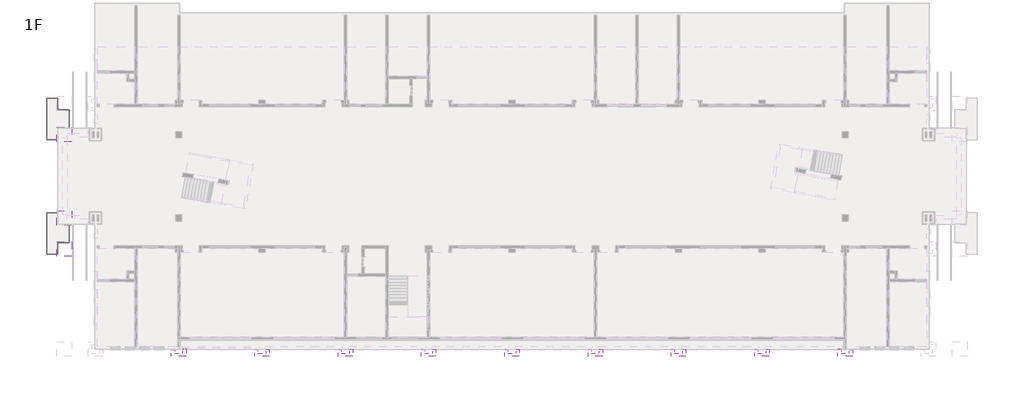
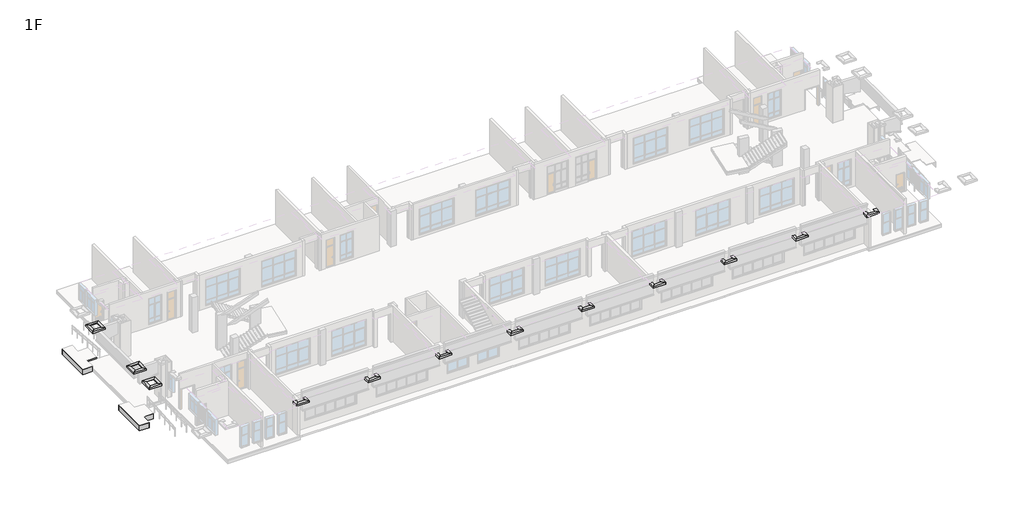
# One storey, part 13 of 16: 14 proxies.
"""IFC4 building model written with IfcOpenShell, lengths in millimetres."""

from ifc_helpers import new_model, si_unit, origin, place, context, project, spatial, faceted_brep, triangles, element, save

model = new_model("IFC4")

# Units and contexts
model_context = context("Model", 3, world=origin())
ifc_project = project(units=[si_unit("LENGTHUNIT", "METRE", prefix="MILLI")], contexts=[model_context])

# Site, building, storey
site = spatial("IfcSite", under=ifc_project)
building = spatial("IfcBuilding", under=site)
storey = spatial("IfcBuildingStorey", under=building, Name="1F", Elevation=0.0)

# Proxies
placement = place(None, origin())
element("IfcBuildingElementProxy", 1, Name="Building Element Proxy", at=placement, inside=storey, context=model_context, shape_type="Tessellation", body=[
    triangles([(-600.0000046, 20099.6894165, 149.8404724), (-600.0000046, 20099.6894165, -450.0000034), (-1700.000013, 20099.6894165, 149.8404724), (-1700.000013, 20099.6894165, -450.0000034), (-1700.000013, 24099.6452637, 149.8404724), (-1700.000013, 24099.6452637, -450.0000034), (-600.0000046, 24099.6452637, 149.8404724), (-600.0000046, 24099.6452637, -450.0000034), (-600.0000046, 22999.3961426, 149.8404724), (-600.0000046, 22999.3961426, -450.0000034), (500.0000038, 22999.3961426, 149.8404724), (500.0000038, 22999.3961426, -450.0000034), (500.0000038, 21199.7013428, 149.8404724), (500.0000038, 21199.7013428, -450.0000034), (-600.0000046, 21199.7013428, 149.8404724), (-600.0000046, 21199.7013428, -450.0000034), (-600.0000046, 21199.3967102, 149.8404724), (-600.0000046, 21199.3967102, -450.0000034)], [[1, 4, 2], [1, 3, 4], [3, 6, 4], [3, 5, 6], [5, 8, 6], [5, 7, 8], [7, 10, 8], [7, 9, 10], [9, 12, 10], [9, 11, 12], [11, 14, 12], [11, 13, 14], [13, 16, 14], [13, 15, 16], [15, 18, 16], [15, 17, 18]], closed=False),
    triangles([(-600.0000046, 21199.3967102, 149.8404724), (-600.0000046, 21199.3967102, -450.0000034), (-600.0000046, 21199.7013428, 149.8404724), (-600.0000046, 21199.7013428, -450.0000034), (500.0000038, 21199.7013428, 149.8404724), (500.0000038, 21199.7013428, -450.0000034), (500.0000038, 22999.3961426, 149.8404724), (500.0000038, 22999.3961426, -450.0000034), (-600.0000046, 22999.3961426, 149.8404724), (-600.0000046, 22999.3961426, -450.0000034), (-600.0000046, 24099.6452637, 149.8404724), (-600.0000046, 24099.6452637, -450.0000034), (-1700.000013, 24099.6452637, 149.8404724), (-1700.000013, 24099.6452637, -450.0000034)], [[1, 4, 2], [1, 3, 4], [3, 6, 4], [3, 5, 6], [5, 8, 6], [5, 7, 8], [7, 10, 8], [7, 9, 10], [9, 12, 10], [9, 11, 12], [11, 14, 12], [11, 13, 14]], closed=False),
    triangles([(-1700.000013, 24099.6452637, 149.8404724), (-1700.000013, 24099.6452637, -450.0000034), (-1700.000013, 20099.6894165, 149.8404724), (-1700.000013, 20099.6894165, -450.0000034), (-600.0000046, 20099.6894165, 149.8404724), (-600.0000046, 20099.6894165, -450.0000034)], [[1, 4, 2], [1, 3, 4], [3, 6, 4], [3, 5, 6]], closed=False),
    triangles([(-1700.000013, 24099.6452637, 149.8404724), (-1700.000013, 20099.6894165, 149.8404724), (-600.0000046, 20099.6894165, 149.8404724), (-600.0000046, 21199.7013428, 149.8404724), (500.0000038, 21199.7013428, 149.8404724), (500.0000038, 22999.3961426, 149.8404724), (-600.0000046, 22999.3961426, 149.8404724), (-600.0000046, 24099.6452637, 149.8404724)], [[2, 4, 7], [4, 2, 3], [1, 7, 8], [7, 1, 2], [4, 6, 7], [5, 6, 4]], closed=False),
])
element("IfcBuildingElementProxy", 2, Name="Building Element Proxy", at=placement, inside=storey, context=model_context, shape_type="Tessellation", body=[
    triangles([(-600.0000046, 12000.6035431, 149.8404724), (-600.0000046, 12000.6035431, -450.0000034), (-600.0000046, 12000.2989105, 149.8404724), (-600.0000046, 12000.2989105, -450.0000034), (500.0000038, 12000.2989105, 149.8404724), (500.0000038, 12000.2989105, -450.0000034), (500.0000038, 10200.6041107, 149.8404724), (500.0000038, 10200.6041107, -450.0000034), (-600.0000046, 10200.6041107, 149.8404724), (-600.0000046, 10200.6041107, -450.0000034), (-600.0000046, 9100.3544083, 149.8404724), (-600.0000046, 9100.3544083, -450.0000034), (-1700.000013, 9100.3544083, 149.8404724), (-1700.000013, 9100.3544083, -450.0000034), (-1700.000013, 13100.3096741, 149.8404724), (-1700.000013, 13100.3096741, -450.0000034), (-600.0000046, 13100.3096741, 149.8404724), (-600.0000046, 13100.3096741, -450.0000034)], [[1, 4, 2], [1, 3, 4], [3, 6, 4], [3, 5, 6], [5, 8, 6], [5, 7, 8], [7, 10, 8], [7, 9, 10], [9, 12, 10], [9, 11, 12], [11, 14, 12], [11, 13, 14], [13, 16, 14], [13, 15, 16], [15, 18, 16], [15, 17, 18]], closed=False),
    triangles([(-600.0000046, 13100.3096741, 149.8404724), (-600.0000046, 13100.3096741, -450.0000034), (-1700.000013, 13100.3096741, 149.8404724), (-1700.000013, 13100.3096741, -450.0000034), (-1700.000013, 9100.3544083, 149.8404724), (-1700.000013, 9100.3544083, -450.0000034)], [[1, 4, 2], [1, 3, 4], [3, 6, 4], [3, 5, 6]], closed=False),
    triangles([(-1700.000013, 9100.3544083, 149.8404724), (-1700.000013, 9100.3544083, -450.0000034), (-600.0000046, 9100.3544083, 149.8404724), (-600.0000046, 9100.3544083, -450.0000034), (-600.0000046, 10200.6041107, 149.8404724), (-600.0000046, 10200.6041107, -450.0000034), (500.0000038, 10200.6041107, 149.8404724), (500.0000038, 10200.6041107, -450.0000034), (500.0000038, 12000.2989105, 149.8404724), (500.0000038, 12000.2989105, -450.0000034), (-600.0000046, 12000.2989105, 149.8404724), (-600.0000046, 12000.2989105, -450.0000034), (-600.0000046, 12000.6035431, 149.8404724), (-600.0000046, 12000.6035431, -450.0000034)], [[1, 4, 2], [1, 3, 4], [3, 6, 4], [3, 5, 6], [5, 8, 6], [5, 7, 8], [7, 10, 8], [7, 9, 10], [9, 12, 10], [9, 11, 12], [11, 14, 12], [11, 13, 14]], closed=False),
    triangles([(-1700.000013, 9100.3544083, 149.8404724), (-600.0000046, 9100.3544083, 149.8404724), (-600.0000046, 10200.6041107, 149.8404724), (500.0000038, 10200.6041107, 149.8404724), (500.0000038, 12000.2989105, 149.8404724), (-600.0000046, 12000.2989105, 149.8404724), (-600.0000046, 13100.3096741, 149.8404724), (-1700.000013, 13100.3096741, 149.8404724)], [[1, 3, 8], [3, 1, 2], [8, 6, 7], [6, 8, 3], [3, 5, 6], [5, 3, 4]], closed=False),
])
element("IfcBuildingElementProxy", 3, Name="QS1", ObjectType="QS1", at=placement, inside=storey, context=model_context, shape_type="Brep", body=[
    faceted_brep([(-700.0000001, 19899.7006935, 4200.0), (-600.0000001, 19999.7006935, 4200.0), (-600.0000001, 19999.7006935, 4250.0), (-650.0000001, 19949.7006935, 4250.0), (-650.0000001, 19949.7006935, 4350.0), (-400.0000001, 20199.7006935, 4350.0), (-400.0000001, 20199.7006935, 4400.0), (-700.0000001, 19899.7006935, 4400.0), (-700.0000001, 21299.7006935, 4200.0), (-700.0000001, 21299.7006935, 4400.0), (-400.0000001, 20999.7006935, 4400.0), (-400.0000001, 20999.7006935, 4350.0), (-650.0000001, 21249.7006935, 4350.0), (-650.0000001, 21249.7006935, 4250.0), (-600.0000001, 21199.7006935, 4250.0), (-600.0000001, 21199.7006935, 4200.0)], [[[0, 1, 2, 3, 4, 5, 6, 7]], [[8, 9, 10, 11, 12, 13, 14, 15]], [[1, 0, 8, 15]], [[2, 1, 15, 14]], [[3, 2, 14, 13]], [[4, 3, 13, 12]], [[5, 4, 12, 11]], [[6, 5, 11, 10]], [[7, 6, 10, 9]], [[0, 7, 9, 8]]]),
    faceted_brep([(-700.0000001, 21299.7006935, 4200.0), (-600.0000001, 21199.7006935, 4200.0), (-600.0000001, 21199.7006935, 4250.0), (-650.0000001, 21249.7006935, 4250.0), (-650.0000001, 21249.7006935, 4350.0), (-400.0000001, 20999.7006935, 4350.0), (-400.0000001, 20999.7006935, 4400.0), (-700.0000001, 21299.7006935, 4400.0), (700.0, 21299.7006935, 4200.0), (700.0, 21299.7006935, 4400.0), (400.0, 20999.7006935, 4400.0), (400.0, 20999.7006935, 4350.0), (650.0, 21249.7006935, 4350.0), (650.0, 21249.7006935, 4250.0), (600.0, 21199.7006935, 4250.0), (600.0, 21199.7006935, 4200.0)], [[[0, 1, 2, 3, 4, 5, 6, 7]], [[8, 9, 10, 11, 12, 13, 14, 15]], [[1, 0, 8, 15]], [[2, 1, 15, 14]], [[3, 2, 14, 13]], [[4, 3, 13, 12]], [[5, 4, 12, 11]], [[6, 5, 11, 10]], [[7, 6, 10, 9]], [[0, 7, 9, 8]]]),
    faceted_brep([(700.0, 19899.7006935, 4200.0), (600.0, 19999.7006935, 4200.0), (600.0, 19999.7006935, 4250.0), (650.0, 19949.7006935, 4250.0), (650.0, 19949.7006935, 4350.0), (400.0, 20199.7006935, 4350.0), (400.0, 20199.7006935, 4400.0), (700.0, 19899.7006935, 4400.0), (-700.0000001, 19899.7006935, 4200.0), (-700.0000001, 19899.7006935, 4400.0), (-400.0000001, 20199.7006935, 4400.0), (-400.0000001, 20199.7006935, 4350.0), (-650.0000001, 19949.7006935, 4350.0), (-650.0000001, 19949.7006935, 4250.0), (-600.0000001, 19999.7006935, 4250.0), (-600.0000001, 19999.7006935, 4200.0)], [[[0, 1, 2, 3, 4, 5, 6, 7]], [[8, 9, 10, 11, 12, 13, 14, 15]], [[1, 0, 8, 15]], [[2, 1, 15, 14]], [[3, 2, 14, 13]], [[4, 3, 13, 12]], [[5, 4, 12, 11]], [[6, 5, 11, 10]], [[7, 6, 10, 9]], [[0, 7, 9, 8]]]),
    faceted_brep([(700.0, 21299.7006935, 4200.0), (600.0, 21199.7006935, 4200.0), (600.0, 21199.7006935, 4250.0), (650.0, 21249.7006935, 4250.0), (650.0, 21249.7006935, 4350.0), (400.0, 20999.7006935, 4350.0), (400.0, 20999.7006935, 4400.0), (700.0, 21299.7006935, 4400.0), (700.0, 19899.7006935, 4200.0), (700.0, 19899.7006935, 4400.0), (400.0, 20199.7006935, 4400.0), (400.0, 20199.7006935, 4350.0), (650.0, 19949.7006935, 4350.0), (650.0, 19949.7006935, 4250.0), (600.0, 19999.7006935, 4250.0), (600.0, 19999.7006935, 4200.0)], [[[0, 1, 2, 3, 4, 5, 6, 7]], [[8, 9, 10, 11, 12, 13, 14, 15]], [[1, 0, 8, 15]], [[2, 1, 15, 14]], [[3, 2, 14, 13]], [[4, 3, 13, 12]], [[5, 4, 12, 11]], [[6, 5, 11, 10]], [[7, 6, 10, 9]], [[0, 7, 9, 8]]]),
])
element("IfcBuildingElementProxy", 4, Name="QS1", ObjectType="QS1", at=placement, inside=storey, context=model_context, shape_type="Brep", body=[
    faceted_brep([(-700.0000001, 11899.3961574, 4200.0), (-600.0000001, 11999.3961574, 4200.0), (-600.0000001, 11999.3961574, 4250.0), (-650.0000001, 11949.3961574, 4250.0), (-650.0000001, 11949.3961574, 4350.0), (-400.0000001, 12199.3961574, 4350.0), (-400.0000001, 12199.3961574, 4400.0), (-700.0000001, 11899.3961574, 4400.0), (-700.0000001, 13299.3961574, 4200.0), (-700.0000001, 13299.3961574, 4400.0), (-400.0000001, 12999.3961574, 4400.0), (-400.0000001, 12999.3961574, 4350.0), (-650.0000001, 13249.3961574, 4350.0), (-650.0000001, 13249.3961574, 4250.0), (-600.0000001, 13199.3961574, 4250.0), (-600.0000001, 13199.3961574, 4200.0)], [[[0, 1, 2, 3, 4, 5, 6, 7]], [[8, 9, 10, 11, 12, 13, 14, 15]], [[1, 0, 8, 15]], [[2, 1, 15, 14]], [[3, 2, 14, 13]], [[4, 3, 13, 12]], [[5, 4, 12, 11]], [[6, 5, 11, 10]], [[7, 6, 10, 9]], [[0, 7, 9, 8]]]),
    faceted_brep([(-700.0000001, 13299.3961574, 4200.0), (-600.0000001, 13199.3961574, 4200.0), (-600.0000001, 13199.3961574, 4250.0), (-650.0000001, 13249.3961574, 4250.0), (-650.0000001, 13249.3961574, 4350.0), (-400.0000001, 12999.3961574, 4350.0), (-400.0000001, 12999.3961574, 4400.0), (-700.0000001, 13299.3961574, 4400.0), (700.0, 13299.3961574, 4200.0), (700.0, 13299.3961574, 4400.0), (400.0, 12999.3961574, 4400.0), (400.0, 12999.3961574, 4350.0), (650.0, 13249.3961574, 4350.0), (650.0, 13249.3961574, 4250.0), (600.0, 13199.3961574, 4250.0), (600.0, 13199.3961574, 4200.0)], [[[0, 1, 2, 3, 4, 5, 6, 7]], [[8, 9, 10, 11, 12, 13, 14, 15]], [[1, 0, 8, 15]], [[2, 1, 15, 14]], [[3, 2, 14, 13]], [[4, 3, 13, 12]], [[5, 4, 12, 11]], [[6, 5, 11, 10]], [[7, 6, 10, 9]], [[0, 7, 9, 8]]]),
    faceted_brep([(700.0, 11899.3961574, 4200.0), (600.0, 11999.3961574, 4200.0), (600.0, 11999.3961574, 4250.0), (650.0, 11949.3961574, 4250.0), (650.0, 11949.3961574, 4350.0), (400.0, 12199.3961574, 4350.0), (400.0, 12199.3961574, 4400.0), (700.0, 11899.3961574, 4400.0), (-700.0000001, 11899.3961574, 4200.0), (-700.0000001, 11899.3961574, 4400.0), (-400.0000001, 12199.3961574, 4400.0), (-400.0000001, 12199.3961574, 4350.0), (-650.0000001, 11949.3961574, 4350.0), (-650.0000001, 11949.3961574, 4250.0), (-600.0000001, 11999.3961574, 4250.0), (-600.0000001, 11999.3961574, 4200.0)], [[[0, 1, 2, 3, 4, 5, 6, 7]], [[8, 9, 10, 11, 12, 13, 14, 15]], [[1, 0, 8, 15]], [[2, 1, 15, 14]], [[3, 2, 14, 13]], [[4, 3, 13, 12]], [[5, 4, 12, 11]], [[6, 5, 11, 10]], [[7, 6, 10, 9]], [[0, 7, 9, 8]]]),
    faceted_brep([(700.0, 13299.3961574, 4200.0), (600.0, 13199.3961574, 4200.0), (600.0, 13199.3961574, 4250.0), (650.0, 13249.3961574, 4250.0), (650.0, 13249.3961574, 4350.0), (400.0, 12999.3961574, 4350.0), (400.0, 12999.3961574, 4400.0), (700.0, 13299.3961574, 4400.0), (700.0, 11899.3961574, 4200.0), (700.0, 11899.3961574, 4400.0), (400.0, 12199.3961574, 4400.0), (400.0, 12199.3961574, 4350.0), (650.0, 11949.3961574, 4350.0), (650.0, 11949.3961574, 4250.0), (600.0, 11999.3961574, 4250.0), (600.0, 11999.3961574, 4200.0)], [[[0, 1, 2, 3, 4, 5, 6, 7]], [[8, 9, 10, 11, 12, 13, 14, 15]], [[1, 0, 8, 15]], [[2, 1, 15, 14]], [[3, 2, 14, 13]], [[4, 3, 13, 12]], [[5, 4, 12, 11]], [[6, 5, 11, 10]], [[7, 6, 10, 9]], [[0, 7, 9, 8]]]),
])
element("IfcBuildingElementProxy", 5, Name="QS1", ObjectType="QS1", at=placement, inside=storey, context=model_context, shape_type="Brep", body=[
    faceted_brep([(-700.0000001, 8899.451414, 4200.0), (-600.0000001, 8999.451414, 4200.0), (-600.0000001, 8999.451414, 4250.0), (-650.0000001, 8949.451414, 4250.0), (-650.0000001, 8949.451414, 4350.0), (-400.0000001, 9199.451414, 4350.0), (-400.0000001, 9199.451414, 4400.0), (-700.0000001, 8899.451414, 4400.0), (-700.0000001, 10299.451414, 4200.0), (-700.0000001, 10299.451414, 4400.0), (-400.0000001, 9999.451414, 4400.0), (-400.0000001, 9999.451414, 4350.0), (-650.0000001, 10249.451414, 4350.0), (-650.0000001, 10249.451414, 4250.0), (-600.0000001, 10199.451414, 4250.0), (-600.0000001, 10199.451414, 4200.0)], [[[0, 1, 2, 3, 4, 5, 6, 7]], [[8, 9, 10, 11, 12, 13, 14, 15]], [[1, 0, 8, 15]], [[2, 1, 15, 14]], [[3, 2, 14, 13]], [[4, 3, 13, 12]], [[5, 4, 12, 11]], [[6, 5, 11, 10]], [[7, 6, 10, 9]], [[0, 7, 9, 8]]]),
    faceted_brep([(-700.0000001, 10299.451414, 4200.0), (-600.0000001, 10199.451414, 4200.0), (-600.0000001, 10199.451414, 4250.0), (-650.0000001, 10249.451414, 4250.0), (-650.0000001, 10249.451414, 4350.0), (-400.0000001, 9999.451414, 4350.0), (-400.0000001, 9999.451414, 4400.0), (-700.0000001, 10299.451414, 4400.0), (700.0, 10299.451414, 4200.0), (700.0, 10299.451414, 4400.0), (400.0, 9999.451414, 4400.0), (400.0, 9999.451414, 4350.0), (650.0, 10249.451414, 4350.0), (650.0, 10249.451414, 4250.0), (600.0, 10199.451414, 4250.0), (600.0, 10199.451414, 4200.0)], [[[0, 1, 2, 3, 4, 5, 6, 7]], [[8, 9, 10, 11, 12, 13, 14, 15]], [[1, 0, 8, 15]], [[2, 1, 15, 14]], [[3, 2, 14, 13]], [[4, 3, 13, 12]], [[5, 4, 12, 11]], [[6, 5, 11, 10]], [[7, 6, 10, 9]], [[0, 7, 9, 8]]]),
    faceted_brep([(700.0, 8899.451414, 4200.0), (600.0, 8999.451414, 4200.0), (600.0, 8999.451414, 4250.0), (650.0, 8949.451414, 4250.0), (650.0, 8949.451414, 4350.0), (400.0, 9199.451414, 4350.0), (400.0, 9199.451414, 4400.0), (700.0, 8899.451414, 4400.0), (-700.0000001, 8899.451414, 4200.0), (-700.0000001, 8899.451414, 4400.0), (-400.0000001, 9199.451414, 4400.0), (-400.0000001, 9199.451414, 4350.0), (-650.0000001, 8949.451414, 4350.0), (-650.0000001, 8949.451414, 4250.0), (-600.0000001, 8999.451414, 4250.0), (-600.0000001, 8999.451414, 4200.0)], [[[0, 1, 2, 3, 4, 5, 6, 7]], [[8, 9, 10, 11, 12, 13, 14, 15]], [[1, 0, 8, 15]], [[2, 1, 15, 14]], [[3, 2, 14, 13]], [[4, 3, 13, 12]], [[5, 4, 12, 11]], [[6, 5, 11, 10]], [[7, 6, 10, 9]], [[0, 7, 9, 8]]]),
    faceted_brep([(700.0, 10299.451414, 4200.0), (600.0, 10199.451414, 4200.0), (600.0, 10199.451414, 4250.0), (650.0, 10249.451414, 4250.0), (650.0, 10249.451414, 4350.0), (400.0, 9999.451414, 4350.0), (400.0, 9999.451414, 4400.0), (700.0, 10299.451414, 4400.0), (700.0, 8899.451414, 4200.0), (700.0, 8899.451414, 4400.0), (400.0, 9199.451414, 4400.0), (400.0, 9199.451414, 4350.0), (650.0, 8949.451414, 4350.0), (650.0, 8949.451414, 4250.0), (600.0, 8999.451414, 4250.0), (600.0, 8999.451414, 4200.0)], [[[0, 1, 2, 3, 4, 5, 6, 7]], [[8, 9, 10, 11, 12, 13, 14, 15]], [[1, 0, 8, 15]], [[2, 1, 15, 14]], [[3, 2, 14, 13]], [[4, 3, 13, 12]], [[5, 4, 12, 11]], [[6, 5, 11, 10]], [[7, 6, 10, 9]], [[0, 7, 9, 8]]]),
])
element("IfcBuildingElementProxy", 6, Name="QS1", ObjectType="QS1", at=placement, inside=storey, context=model_context, shape_type="Brep", body=[
    faceted_brep([(74300.0000001, -700.2492803, 4200.0), (74400.0000001, -600.2492803, 4200.0), (74400.0000001, -600.2492803, 4250.0), (74350.0000001, -650.2492803, 4250.0), (74350.0000001, -650.2492803, 4350.0), (74600.0000001, -400.2492803, 4350.0), (74600.0000001, -400.2492803, 4400.0), (74300.0000001, -700.2492803, 4400.0), (74300.0000001, 39.7507197, 4200.0), (74300.0000001, 39.7507197, 4400.0), (74600.0000001, 39.7507197, 4400.0), (74600.0000001, 39.7507197, 4350.0), (74350.0000001, 39.7507197, 4350.0), (74350.0000001, 39.7507197, 4250.0), (74400.0000001, 39.7507197, 4250.0), (74400.0000001, 39.7507197, 4200.0)], [[[0, 1, 2, 3, 4, 5, 6, 7]], [[8, 9, 10, 11, 12, 13, 14, 15]], [[1, 0, 8, 15]], [[2, 1, 15, 14]], [[3, 2, 14, 13]], [[4, 3, 13, 12]], [[5, 4, 12, 11]], [[6, 5, 11, 10]], [[7, 6, 10, 9]], [[0, 7, 9, 8]]]),
    faceted_brep([(75699.9999991, -700.2492803, 4200.0), (75599.9999991, -600.2492803, 4200.0), (75599.9999991, -600.2492803, 4250.0), (75649.9999991, -650.2492803, 4250.0), (75649.9999991, -650.2492803, 4350.0), (75399.9999991, -400.2492803, 4350.0), (75399.9999991, -400.2492803, 4400.0), (75699.9999991, -700.2492803, 4400.0), (74300.0000001, -700.2492803, 4200.0), (74300.0000001, -700.2492803, 4400.0), (74600.0000001, -400.2492803, 4400.0), (74600.0000001, -400.2492803, 4350.0), (74350.0000001, -650.2492803, 4350.0), (74350.0000001, -650.2492803, 4250.0), (74400.0000001, -600.2492803, 4250.0), (74400.0000001, -600.2492803, 4200.0)], [[[0, 1, 2, 3, 4, 5, 6, 7]], [[8, 9, 10, 11, 12, 13, 14, 15]], [[1, 0, 8, 15]], [[2, 1, 15, 14]], [[3, 2, 14, 13]], [[4, 3, 13, 12]], [[5, 4, 12, 11]], [[6, 5, 11, 10]], [[7, 6, 10, 9]], [[0, 7, 9, 8]]]),
    faceted_brep([(75699.9999991, -53.304536, 4200.0), (75599.9999991, -53.304536, 4200.0), (75599.9999991, -53.304536, 4250.0), (75649.9999991, -53.304536, 4250.0), (75649.9999991, -53.304536, 4350.0), (75399.9999991, -53.304536, 4350.0), (75399.9999991, -53.304536, 4400.0), (75699.9999991, -53.304536, 4400.0), (75699.9999991, -700.2492803, 4200.0), (75699.9999991, -700.2492803, 4400.0), (75399.9999991, -400.2492803, 4400.0), (75399.9999991, -400.2492803, 4350.0), (75649.9999991, -650.2492803, 4350.0), (75649.9999991, -650.2492803, 4250.0), (75599.9999991, -600.2492803, 4250.0), (75599.9999991, -600.2492803, 4200.0)], [[[0, 1, 2, 3, 4, 5, 6, 7]], [[8, 9, 10, 11, 12, 13, 14, 15]], [[1, 0, 8, 15]], [[2, 1, 15, 14]], [[3, 2, 14, 13]], [[4, 3, 13, 12]], [[5, 4, 12, 11]], [[6, 5, 11, 10]], [[7, 6, 10, 9]], [[0, 7, 9, 8]]]),
])
element("IfcBuildingElementProxy", 7, Name="QS1", ObjectType="QS1", at=placement, inside=storey, context=model_context, shape_type="Brep", body=[
    faceted_brep([(11699.9999999, -699.6402082, 4200.0), (11699.9999999, -699.6402082, 4400.0), (11399.9999999, -399.6402082, 4400.0), (11399.9999999, -399.6402082, 4350.0), (11649.9999999, -649.6402082, 4350.0), (11649.9999999, -649.6402082, 4250.0), (11599.9999999, -599.6402082, 4250.0), (11599.9999999, -599.6402082, 4200.0), (11699.9999999, 40.3597918, 4200.0), (11599.9999999, 40.3597918, 4200.0), (11599.9999999, 40.3597918, 4250.0), (11649.9999999, 40.3597918, 4250.0), (11649.9999999, 40.3597918, 4350.0), (11399.9999999, 40.3597918, 4350.0), (11399.9999999, 40.3597918, 4400.0), (11699.9999999, 40.3597918, 4400.0)], [[[0, 1, 2, 3, 4, 5, 6, 7]], [[8, 9, 10, 11, 12, 13, 14, 15]], [[0, 7, 9, 8]], [[7, 6, 10, 9]], [[6, 5, 11, 10]], [[5, 4, 12, 11]], [[4, 3, 13, 12]], [[3, 2, 14, 13]], [[2, 1, 15, 14]], [[1, 0, 8, 15]]]),
    faceted_brep([(10300.0000009, -699.6402082, 4200.0), (10300.0000009, -699.6402082, 4400.0), (10600.0000009, -399.6402082, 4400.0), (10600.0000009, -399.6402082, 4350.0), (10350.0000009, -649.6402082, 4350.0), (10350.0000009, -649.6402082, 4250.0), (10400.0000009, -599.6402082, 4250.0), (10400.0000009, -599.6402082, 4200.0), (11699.9999999, -699.6402082, 4200.0), (11599.9999999, -599.6402082, 4200.0), (11599.9999999, -599.6402082, 4250.0), (11649.9999999, -649.6402082, 4250.0), (11649.9999999, -649.6402082, 4350.0), (11399.9999999, -399.6402082, 4350.0), (11399.9999999, -399.6402082, 4400.0), (11699.9999999, -699.6402082, 4400.0)], [[[0, 1, 2, 3, 4, 5, 6, 7]], [[8, 9, 10, 11, 12, 13, 14, 15]], [[0, 7, 9, 8]], [[7, 6, 10, 9]], [[6, 5, 11, 10]], [[5, 4, 12, 11]], [[4, 3, 13, 12]], [[3, 2, 14, 13]], [[2, 1, 15, 14]], [[1, 0, 8, 15]]]),
    faceted_brep([(10300.0000009, -52.6954639, 4200.0), (10300.0000009, -52.6954639, 4400.0), (10600.0000009, -52.6954639, 4400.0), (10600.0000009, -52.6954639, 4350.0), (10350.0000009, -52.6954639, 4350.0), (10350.0000009, -52.6954639, 4250.0), (10400.0000009, -52.6954639, 4250.0), (10400.0000009, -52.6954639, 4200.0), (10300.0000009, -699.6402082, 4200.0), (10400.0000009, -599.6402082, 4200.0), (10400.0000009, -599.6402082, 4250.0), (10350.0000009, -649.6402082, 4250.0), (10350.0000009, -649.6402082, 4350.0), (10600.0000009, -399.6402082, 4350.0), (10600.0000009, -399.6402082, 4400.0), (10300.0000009, -699.6402082, 4400.0)], [[[0, 1, 2, 3, 4, 5, 6, 7]], [[8, 9, 10, 11, 12, 13, 14, 15]], [[0, 7, 9, 8]], [[7, 6, 10, 9]], [[6, 5, 11, 10]], [[5, 4, 12, 11]], [[4, 3, 13, 12]], [[3, 2, 14, 13]], [[2, 1, 15, 14]], [[1, 0, 8, 15]]]),
])
element("IfcBuildingElementProxy", 8, Name="QS1", ObjectType="QS1", at=placement, inside=storey, context=model_context, shape_type="Brep", body=[
    faceted_brep([(18300.0000009, 0.0, 4200.0), (18300.0000009, 0.0, 4400.0), (18600.0000009, 0.0, 4400.0), (18600.0000009, 0.0, 4350.0), (18350.0000009, 0.0, 4350.0), (18350.0000009, 0.0, 4250.0), (18400.0000009, 0.0, 4250.0), (18400.0000009, 0.0, 4200.0), (18300.0000009, -699.6402082, 4200.0), (18400.0000009, -599.6402082, 4200.0), (18400.0000009, -599.6402082, 4250.0), (18350.0000009, -649.6402082, 4250.0), (18350.0000009, -649.6402082, 4350.0), (18600.0000009, -399.6402082, 4350.0), (18600.0000009, -399.6402082, 4400.0), (18300.0000009, -699.6402082, 4400.0)], [[[0, 1, 2, 3, 4, 5, 6, 7]], [[8, 9, 10, 11, 12, 13, 14, 15]], [[0, 7, 9, 8]], [[7, 6, 10, 9]], [[6, 5, 11, 10]], [[5, 4, 12, 11]], [[4, 3, 13, 12]], [[3, 2, 14, 13]], [[2, 1, 15, 14]], [[1, 0, 8, 15]]]),
    faceted_brep([(18300.0000009, -699.6402082, 4200.0), (18300.0000009, -699.6402082, 4400.0), (18600.0000009, -399.6402082, 4400.0), (18600.0000009, -399.6402082, 4350.0), (18350.0000009, -649.6402082, 4350.0), (18350.0000009, -649.6402082, 4250.0), (18400.0000009, -599.6402082, 4250.0), (18400.0000009, -599.6402082, 4200.0), (19699.9999999, -699.6402082, 4200.0), (19599.9999999, -599.6402082, 4200.0), (19599.9999999, -599.6402082, 4250.0), (19649.9999999, -649.6402082, 4250.0), (19649.9999999, -649.6402082, 4350.0), (19399.9999999, -399.6402082, 4350.0), (19399.9999999, -399.6402082, 4400.0), (19699.9999999, -699.6402082, 4400.0)], [[[0, 1, 2, 3, 4, 5, 6, 7]], [[8, 9, 10, 11, 12, 13, 14, 15]], [[0, 7, 9, 8]], [[7, 6, 10, 9]], [[6, 5, 11, 10]], [[5, 4, 12, 11]], [[4, 3, 13, 12]], [[3, 2, 14, 13]], [[2, 1, 15, 14]], [[1, 0, 8, 15]]]),
    faceted_brep([(19699.9999999, -699.6402082, 4200.0), (19699.9999999, -699.6402082, 4400.0), (19399.9999999, -399.6402082, 4400.0), (19399.9999999, -399.6402082, 4350.0), (19649.9999999, -649.6402082, 4350.0), (19649.9999999, -649.6402082, 4250.0), (19599.9999999, -599.6402082, 4250.0), (19599.9999999, -599.6402082, 4200.0), (19699.9999999, 0.155043, 4200.0), (19599.9999999, 0.155043, 4200.0), (19599.9999999, 0.155043, 4250.0), (19649.9999999, 0.155043, 4250.0), (19649.9999999, 0.155043, 4350.0), (19399.9999999, 0.155043, 4350.0), (19399.9999999, 0.155043, 4400.0), (19699.9999999, 0.155043, 4400.0)], [[[0, 1, 2, 3, 4, 5, 6, 7]], [[8, 9, 10, 11, 12, 13, 14, 15]], [[0, 7, 9, 8]], [[7, 6, 10, 9]], [[6, 5, 11, 10]], [[5, 4, 12, 11]], [[4, 3, 13, 12]], [[3, 2, 14, 13]], [[2, 1, 15, 14]], [[1, 0, 8, 15]]]),
])
element("IfcBuildingElementProxy", 9, Name="QS1", ObjectType="QS1", at=placement, inside=storey, context=model_context, shape_type="Brep", body=[
    faceted_brep([(26300.0000009, 0.0, 4200.0), (26300.0000009, 0.0, 4400.0), (26600.0000009, 0.0, 4400.0), (26600.0000009, 0.0, 4350.0), (26350.0000009, 0.0, 4350.0), (26350.0000009, 0.0, 4250.0), (26400.0000009, 0.0, 4250.0), (26400.0000009, 0.0, 4200.0), (26300.0000009, -699.6402082, 4200.0), (26400.0000009, -599.6402082, 4200.0), (26400.0000009, -599.6402082, 4250.0), (26350.0000009, -649.6402082, 4250.0), (26350.0000009, -649.6402082, 4350.0), (26600.0000009, -399.6402082, 4350.0), (26600.0000009, -399.6402082, 4400.0), (26300.0000009, -699.6402082, 4400.0)], [[[0, 1, 2, 3, 4, 5, 6, 7]], [[8, 9, 10, 11, 12, 13, 14, 15]], [[0, 7, 9, 8]], [[7, 6, 10, 9]], [[6, 5, 11, 10]], [[5, 4, 12, 11]], [[4, 3, 13, 12]], [[3, 2, 14, 13]], [[2, 1, 15, 14]], [[1, 0, 8, 15]]]),
    faceted_brep([(26300.0000009, -699.6402082, 4200.0), (26300.0000009, -699.6402082, 4400.0), (26600.0000009, -399.6402082, 4400.0), (26600.0000009, -399.6402082, 4350.0), (26350.0000009, -649.6402082, 4350.0), (26350.0000009, -649.6402082, 4250.0), (26400.0000009, -599.6402082, 4250.0), (26400.0000009, -599.6402082, 4200.0), (27699.9999999, -699.6402082, 4200.0), (27599.9999999, -599.6402082, 4200.0), (27599.9999999, -599.6402082, 4250.0), (27649.9999999, -649.6402082, 4250.0), (27649.9999999, -649.6402082, 4350.0), (27399.9999999, -399.6402082, 4350.0), (27399.9999999, -399.6402082, 4400.0), (27699.9999999, -699.6402082, 4400.0)], [[[0, 1, 2, 3, 4, 5, 6, 7]], [[8, 9, 10, 11, 12, 13, 14, 15]], [[0, 7, 9, 8]], [[7, 6, 10, 9]], [[6, 5, 11, 10]], [[5, 4, 12, 11]], [[4, 3, 13, 12]], [[3, 2, 14, 13]], [[2, 1, 15, 14]], [[1, 0, 8, 15]]]),
    faceted_brep([(27699.9999999, -699.6402082, 4200.0), (27699.9999999, -699.6402082, 4400.0), (27399.9999999, -399.6402082, 4400.0), (27399.9999999, -399.6402082, 4350.0), (27649.9999999, -649.6402082, 4350.0), (27649.9999999, -649.6402082, 4250.0), (27599.9999999, -599.6402082, 4250.0), (27599.9999999, -599.6402082, 4200.0), (27699.9999999, 0.155043, 4200.0), (27599.9999999, 0.155043, 4200.0), (27599.9999999, 0.155043, 4250.0), (27649.9999999, 0.155043, 4250.0), (27649.9999999, 0.155043, 4350.0), (27399.9999999, 0.155043, 4350.0), (27399.9999999, 0.155043, 4400.0), (27699.9999999, 0.155043, 4400.0)], [[[0, 1, 2, 3, 4, 5, 6, 7]], [[8, 9, 10, 11, 12, 13, 14, 15]], [[0, 7, 9, 8]], [[7, 6, 10, 9]], [[6, 5, 11, 10]], [[5, 4, 12, 11]], [[4, 3, 13, 12]], [[3, 2, 14, 13]], [[2, 1, 15, 14]], [[1, 0, 8, 15]]]),
])
element("IfcBuildingElementProxy", 10, Name="QS1", ObjectType="QS1", at=placement, inside=storey, context=model_context, shape_type="Brep", body=[
    faceted_brep([(34300.0000009, 0.0, 4200.0), (34300.0000009, 0.0, 4400.0), (34600.0000009, 0.0, 4400.0), (34600.0000009, 0.0, 4350.0), (34350.0000009, 0.0, 4350.0), (34350.0000009, 0.0, 4250.0), (34400.0000009, 0.0, 4250.0), (34400.0000009, 0.0, 4200.0), (34300.0000009, -699.6402082, 4200.0), (34400.0000009, -599.6402082, 4200.0), (34400.0000009, -599.6402082, 4250.0), (34350.0000009, -649.6402082, 4250.0), (34350.0000009, -649.6402082, 4350.0), (34600.0000009, -399.6402082, 4350.0), (34600.0000009, -399.6402082, 4400.0), (34300.0000009, -699.6402082, 4400.0)], [[[0, 1, 2, 3, 4, 5, 6, 7]], [[8, 9, 10, 11, 12, 13, 14, 15]], [[0, 7, 9, 8]], [[7, 6, 10, 9]], [[6, 5, 11, 10]], [[5, 4, 12, 11]], [[4, 3, 13, 12]], [[3, 2, 14, 13]], [[2, 1, 15, 14]], [[1, 0, 8, 15]]]),
    faceted_brep([(34300.0000009, -699.6402082, 4200.0), (34300.0000009, -699.6402082, 4400.0), (34600.0000009, -399.6402082, 4400.0), (34600.0000009, -399.6402082, 4350.0), (34350.0000009, -649.6402082, 4350.0), (34350.0000009, -649.6402082, 4250.0), (34400.0000009, -599.6402082, 4250.0), (34400.0000009, -599.6402082, 4200.0), (35699.9999999, -699.6402082, 4200.0), (35599.9999999, -599.6402082, 4200.0), (35599.9999999, -599.6402082, 4250.0), (35649.9999999, -649.6402082, 4250.0), (35649.9999999, -649.6402082, 4350.0), (35399.9999999, -399.6402082, 4350.0), (35399.9999999, -399.6402082, 4400.0), (35699.9999999, -699.6402082, 4400.0)], [[[0, 1, 2, 3, 4, 5, 6, 7]], [[8, 9, 10, 11, 12, 13, 14, 15]], [[0, 7, 9, 8]], [[7, 6, 10, 9]], [[6, 5, 11, 10]], [[5, 4, 12, 11]], [[4, 3, 13, 12]], [[3, 2, 14, 13]], [[2, 1, 15, 14]], [[1, 0, 8, 15]]]),
    faceted_brep([(35699.9999999, -699.6402082, 4200.0), (35699.9999999, -699.6402082, 4400.0), (35399.9999999, -399.6402082, 4400.0), (35399.9999999, -399.6402082, 4350.0), (35649.9999999, -649.6402082, 4350.0), (35649.9999999, -649.6402082, 4250.0), (35599.9999999, -599.6402082, 4250.0), (35599.9999999, -599.6402082, 4200.0), (35699.9999999, 0.155043, 4200.0), (35599.9999999, 0.155043, 4200.0), (35599.9999999, 0.155043, 4250.0), (35649.9999999, 0.155043, 4250.0), (35649.9999999, 0.155043, 4350.0), (35399.9999999, 0.155043, 4350.0), (35399.9999999, 0.155043, 4400.0), (35699.9999999, 0.155043, 4400.0)], [[[0, 1, 2, 3, 4, 5, 6, 7]], [[8, 9, 10, 11, 12, 13, 14, 15]], [[0, 7, 9, 8]], [[7, 6, 10, 9]], [[6, 5, 11, 10]], [[5, 4, 12, 11]], [[4, 3, 13, 12]], [[3, 2, 14, 13]], [[2, 1, 15, 14]], [[1, 0, 8, 15]]]),
])
element("IfcBuildingElementProxy", 11, Name="QS1", ObjectType="QS1", at=placement, inside=storey, context=model_context, shape_type="Brep", body=[
    faceted_brep([(42300.0000009, 0.0, 4200.0), (42300.0000009, 0.0, 4400.0), (42600.0000009, 0.0, 4400.0), (42600.0000009, 0.0, 4350.0), (42350.0000009, 0.0, 4350.0), (42350.0000009, 0.0, 4250.0), (42400.0000009, 0.0, 4250.0), (42400.0000009, 0.0, 4200.0), (42300.0000009, -699.6402082, 4200.0), (42400.0000009, -599.6402082, 4200.0), (42400.0000009, -599.6402082, 4250.0), (42350.0000009, -649.6402082, 4250.0), (42350.0000009, -649.6402082, 4350.0), (42600.0000009, -399.6402082, 4350.0), (42600.0000009, -399.6402082, 4400.0), (42300.0000009, -699.6402082, 4400.0)], [[[0, 1, 2, 3, 4, 5, 6, 7]], [[8, 9, 10, 11, 12, 13, 14, 15]], [[0, 7, 9, 8]], [[7, 6, 10, 9]], [[6, 5, 11, 10]], [[5, 4, 12, 11]], [[4, 3, 13, 12]], [[3, 2, 14, 13]], [[2, 1, 15, 14]], [[1, 0, 8, 15]]]),
    faceted_brep([(42300.0000009, -699.6402082, 4200.0), (42300.0000009, -699.6402082, 4400.0), (42600.0000009, -399.6402082, 4400.0), (42600.0000009, -399.6402082, 4350.0), (42350.0000009, -649.6402082, 4350.0), (42350.0000009, -649.6402082, 4250.0), (42400.0000009, -599.6402082, 4250.0), (42400.0000009, -599.6402082, 4200.0), (43699.9999999, -699.6402082, 4200.0), (43599.9999999, -599.6402082, 4200.0), (43599.9999999, -599.6402082, 4250.0), (43649.9999999, -649.6402082, 4250.0), (43649.9999999, -649.6402082, 4350.0), (43399.9999999, -399.6402082, 4350.0), (43399.9999999, -399.6402082, 4400.0), (43699.9999999, -699.6402082, 4400.0)], [[[0, 1, 2, 3, 4, 5, 6, 7]], [[8, 9, 10, 11, 12, 13, 14, 15]], [[0, 7, 9, 8]], [[7, 6, 10, 9]], [[6, 5, 11, 10]], [[5, 4, 12, 11]], [[4, 3, 13, 12]], [[3, 2, 14, 13]], [[2, 1, 15, 14]], [[1, 0, 8, 15]]]),
    faceted_brep([(43699.9999999, -699.6402082, 4200.0), (43699.9999999, -699.6402082, 4400.0), (43399.9999999, -399.6402082, 4400.0), (43399.9999999, -399.6402082, 4350.0), (43649.9999999, -649.6402082, 4350.0), (43649.9999999, -649.6402082, 4250.0), (43599.9999999, -599.6402082, 4250.0), (43599.9999999, -599.6402082, 4200.0), (43699.9999999, 0.155043, 4200.0), (43599.9999999, 0.155043, 4200.0), (43599.9999999, 0.155043, 4250.0), (43649.9999999, 0.155043, 4250.0), (43649.9999999, 0.155043, 4350.0), (43399.9999999, 0.155043, 4350.0), (43399.9999999, 0.155043, 4400.0), (43699.9999999, 0.155043, 4400.0)], [[[0, 1, 2, 3, 4, 5, 6, 7]], [[8, 9, 10, 11, 12, 13, 14, 15]], [[0, 7, 9, 8]], [[7, 6, 10, 9]], [[6, 5, 11, 10]], [[5, 4, 12, 11]], [[4, 3, 13, 12]], [[3, 2, 14, 13]], [[2, 1, 15, 14]], [[1, 0, 8, 15]]]),
])
element("IfcBuildingElementProxy", 12, Name="QS1", ObjectType="QS1", at=placement, inside=storey, context=model_context, shape_type="Brep", body=[
    faceted_brep([(50300.0000009, 0.0, 4200.0), (50300.0000009, 0.0, 4400.0), (50600.0000009, 0.0, 4400.0), (50600.0000009, 0.0, 4350.0), (50350.0000009, 0.0, 4350.0), (50350.0000009, 0.0, 4250.0), (50400.0000009, 0.0, 4250.0), (50400.0000009, 0.0, 4200.0), (50300.0000009, -699.6402082, 4200.0), (50400.0000009, -599.6402082, 4200.0), (50400.0000009, -599.6402082, 4250.0), (50350.0000009, -649.6402082, 4250.0), (50350.0000009, -649.6402082, 4350.0), (50600.0000009, -399.6402082, 4350.0), (50600.0000009, -399.6402082, 4400.0), (50300.0000009, -699.6402082, 4400.0)], [[[0, 1, 2, 3, 4, 5, 6, 7]], [[8, 9, 10, 11, 12, 13, 14, 15]], [[0, 7, 9, 8]], [[7, 6, 10, 9]], [[6, 5, 11, 10]], [[5, 4, 12, 11]], [[4, 3, 13, 12]], [[3, 2, 14, 13]], [[2, 1, 15, 14]], [[1, 0, 8, 15]]]),
    faceted_brep([(50300.0000009, -699.6402082, 4200.0), (50300.0000009, -699.6402082, 4400.0), (50600.0000009, -399.6402082, 4400.0), (50600.0000009, -399.6402082, 4350.0), (50350.0000009, -649.6402082, 4350.0), (50350.0000009, -649.6402082, 4250.0), (50400.0000009, -599.6402082, 4250.0), (50400.0000009, -599.6402082, 4200.0), (51699.9999999, -699.6402082, 4200.0), (51599.9999999, -599.6402082, 4200.0), (51599.9999999, -599.6402082, 4250.0), (51649.9999999, -649.6402082, 4250.0), (51649.9999999, -649.6402082, 4350.0), (51399.9999999, -399.6402082, 4350.0), (51399.9999999, -399.6402082, 4400.0), (51699.9999999, -699.6402082, 4400.0)], [[[0, 1, 2, 3, 4, 5, 6, 7]], [[8, 9, 10, 11, 12, 13, 14, 15]], [[0, 7, 9, 8]], [[7, 6, 10, 9]], [[6, 5, 11, 10]], [[5, 4, 12, 11]], [[4, 3, 13, 12]], [[3, 2, 14, 13]], [[2, 1, 15, 14]], [[1, 0, 8, 15]]]),
    faceted_brep([(51699.9999999, -699.6402082, 4200.0), (51699.9999999, -699.6402082, 4400.0), (51399.9999999, -399.6402082, 4400.0), (51399.9999999, -399.6402082, 4350.0), (51649.9999999, -649.6402082, 4350.0), (51649.9999999, -649.6402082, 4250.0), (51599.9999999, -599.6402082, 4250.0), (51599.9999999, -599.6402082, 4200.0), (51699.9999999, 0.155043, 4200.0), (51599.9999999, 0.155043, 4200.0), (51599.9999999, 0.155043, 4250.0), (51649.9999999, 0.155043, 4250.0), (51649.9999999, 0.155043, 4350.0), (51399.9999999, 0.155043, 4350.0), (51399.9999999, 0.155043, 4400.0), (51699.9999999, 0.155043, 4400.0)], [[[0, 1, 2, 3, 4, 5, 6, 7]], [[8, 9, 10, 11, 12, 13, 14, 15]], [[0, 7, 9, 8]], [[7, 6, 10, 9]], [[6, 5, 11, 10]], [[5, 4, 12, 11]], [[4, 3, 13, 12]], [[3, 2, 14, 13]], [[2, 1, 15, 14]], [[1, 0, 8, 15]]]),
])
element("IfcBuildingElementProxy", 13, Name="QS1", ObjectType="QS1", at=placement, inside=storey, context=model_context, shape_type="Brep", body=[
    faceted_brep([(58300.0000009, 0.0, 4200.0), (58300.0000009, 0.0, 4400.0), (58600.0000009, 0.0, 4400.0), (58600.0000009, 0.0, 4350.0), (58350.0000009, 0.0, 4350.0), (58350.0000009, 0.0, 4250.0), (58400.0000009, 0.0, 4250.0), (58400.0000009, 0.0, 4200.0), (58300.0000009, -699.6402082, 4200.0), (58400.0000009, -599.6402082, 4200.0), (58400.0000009, -599.6402082, 4250.0), (58350.0000009, -649.6402082, 4250.0), (58350.0000009, -649.6402082, 4350.0), (58600.0000009, -399.6402082, 4350.0), (58600.0000009, -399.6402082, 4400.0), (58300.0000009, -699.6402082, 4400.0)], [[[0, 1, 2, 3, 4, 5, 6, 7]], [[8, 9, 10, 11, 12, 13, 14, 15]], [[0, 7, 9, 8]], [[7, 6, 10, 9]], [[6, 5, 11, 10]], [[5, 4, 12, 11]], [[4, 3, 13, 12]], [[3, 2, 14, 13]], [[2, 1, 15, 14]], [[1, 0, 8, 15]]]),
    faceted_brep([(58300.0000009, -699.6402082, 4200.0), (58300.0000009, -699.6402082, 4400.0), (58600.0000009, -399.6402082, 4400.0), (58600.0000009, -399.6402082, 4350.0), (58350.0000009, -649.6402082, 4350.0), (58350.0000009, -649.6402082, 4250.0), (58400.0000009, -599.6402082, 4250.0), (58400.0000009, -599.6402082, 4200.0), (59699.9999999, -699.6402082, 4200.0), (59599.9999999, -599.6402082, 4200.0), (59599.9999999, -599.6402082, 4250.0), (59649.9999999, -649.6402082, 4250.0), (59649.9999999, -649.6402082, 4350.0), (59399.9999999, -399.6402082, 4350.0), (59399.9999999, -399.6402082, 4400.0), (59699.9999999, -699.6402082, 4400.0)], [[[0, 1, 2, 3, 4, 5, 6, 7]], [[8, 9, 10, 11, 12, 13, 14, 15]], [[0, 7, 9, 8]], [[7, 6, 10, 9]], [[6, 5, 11, 10]], [[5, 4, 12, 11]], [[4, 3, 13, 12]], [[3, 2, 14, 13]], [[2, 1, 15, 14]], [[1, 0, 8, 15]]]),
    faceted_brep([(59699.9999999, -699.6402082, 4200.0), (59699.9999999, -699.6402082, 4400.0), (59399.9999999, -399.6402082, 4400.0), (59399.9999999, -399.6402082, 4350.0), (59649.9999999, -649.6402082, 4350.0), (59649.9999999, -649.6402082, 4250.0), (59599.9999999, -599.6402082, 4250.0), (59599.9999999, -599.6402082, 4200.0), (59699.9999999, 0.155043, 4200.0), (59599.9999999, 0.155043, 4200.0), (59599.9999999, 0.155043, 4250.0), (59649.9999999, 0.155043, 4250.0), (59649.9999999, 0.155043, 4350.0), (59399.9999999, 0.155043, 4350.0), (59399.9999999, 0.155043, 4400.0), (59699.9999999, 0.155043, 4400.0)], [[[0, 1, 2, 3, 4, 5, 6, 7]], [[8, 9, 10, 11, 12, 13, 14, 15]], [[0, 7, 9, 8]], [[7, 6, 10, 9]], [[6, 5, 11, 10]], [[5, 4, 12, 11]], [[4, 3, 13, 12]], [[3, 2, 14, 13]], [[2, 1, 15, 14]], [[1, 0, 8, 15]]]),
])
element("IfcBuildingElementProxy", 14, Name="QS1", ObjectType="QS1", at=placement, inside=storey, context=model_context, shape_type="Brep", body=[
    faceted_brep([(66300.0000009, 0.0, 4200.0), (66300.0000009, 0.0, 4400.0), (66600.0000009, 0.0, 4400.0), (66600.0000009, 0.0, 4350.0), (66350.0000009, 0.0, 4350.0), (66350.0000009, 0.0, 4250.0), (66400.0000009, 0.0, 4250.0), (66400.0000009, 0.0, 4200.0), (66300.0000009, -699.6402082, 4200.0), (66400.0000009, -599.6402082, 4200.0), (66400.0000009, -599.6402082, 4250.0), (66350.0000009, -649.6402082, 4250.0), (66350.0000009, -649.6402082, 4350.0), (66600.0000009, -399.6402082, 4350.0), (66600.0000009, -399.6402082, 4400.0), (66300.0000009, -699.6402082, 4400.0)], [[[0, 1, 2, 3, 4, 5, 6, 7]], [[8, 9, 10, 11, 12, 13, 14, 15]], [[0, 7, 9, 8]], [[7, 6, 10, 9]], [[6, 5, 11, 10]], [[5, 4, 12, 11]], [[4, 3, 13, 12]], [[3, 2, 14, 13]], [[2, 1, 15, 14]], [[1, 0, 8, 15]]]),
    faceted_brep([(66300.0000009, -699.6402082, 4200.0), (66300.0000009, -699.6402082, 4400.0), (66600.0000009, -399.6402082, 4400.0), (66600.0000009, -399.6402082, 4350.0), (66350.0000009, -649.6402082, 4350.0), (66350.0000009, -649.6402082, 4250.0), (66400.0000009, -599.6402082, 4250.0), (66400.0000009, -599.6402082, 4200.0), (67699.9999999, -699.6402082, 4200.0), (67599.9999999, -599.6402082, 4200.0), (67599.9999999, -599.6402082, 4250.0), (67649.9999999, -649.6402082, 4250.0), (67649.9999999, -649.6402082, 4350.0), (67399.9999999, -399.6402082, 4350.0), (67399.9999999, -399.6402082, 4400.0), (67699.9999999, -699.6402082, 4400.0)], [[[0, 1, 2, 3, 4, 5, 6, 7]], [[8, 9, 10, 11, 12, 13, 14, 15]], [[0, 7, 9, 8]], [[7, 6, 10, 9]], [[6, 5, 11, 10]], [[5, 4, 12, 11]], [[4, 3, 13, 12]], [[3, 2, 14, 13]], [[2, 1, 15, 14]], [[1, 0, 8, 15]]]),
    faceted_brep([(67699.9999999, -699.6402082, 4200.0), (67699.9999999, -699.6402082, 4400.0), (67399.9999999, -399.6402082, 4400.0), (67399.9999999, -399.6402082, 4350.0), (67649.9999999, -649.6402082, 4350.0), (67649.9999999, -649.6402082, 4250.0), (67599.9999999, -599.6402082, 4250.0), (67599.9999999, -599.6402082, 4200.0), (67699.9999999, 0.155043, 4200.0), (67599.9999999, 0.155043, 4200.0), (67599.9999999, 0.155043, 4250.0), (67649.9999999, 0.155043, 4250.0), (67649.9999999, 0.155043, 4350.0), (67399.9999999, 0.155043, 4350.0), (67399.9999999, 0.155043, 4400.0), (67699.9999999, 0.155043, 4400.0)], [[[0, 1, 2, 3, 4, 5, 6, 7]], [[8, 9, 10, 11, 12, 13, 14, 15]], [[0, 7, 9, 8]], [[7, 6, 10, 9]], [[6, 5, 11, 10]], [[5, 4, 12, 11]], [[4, 3, 13, 12]], [[3, 2, 14, 13]], [[2, 1, 15, 14]], [[1, 0, 8, 15]]]),
])

save(model, "model.ifc")
